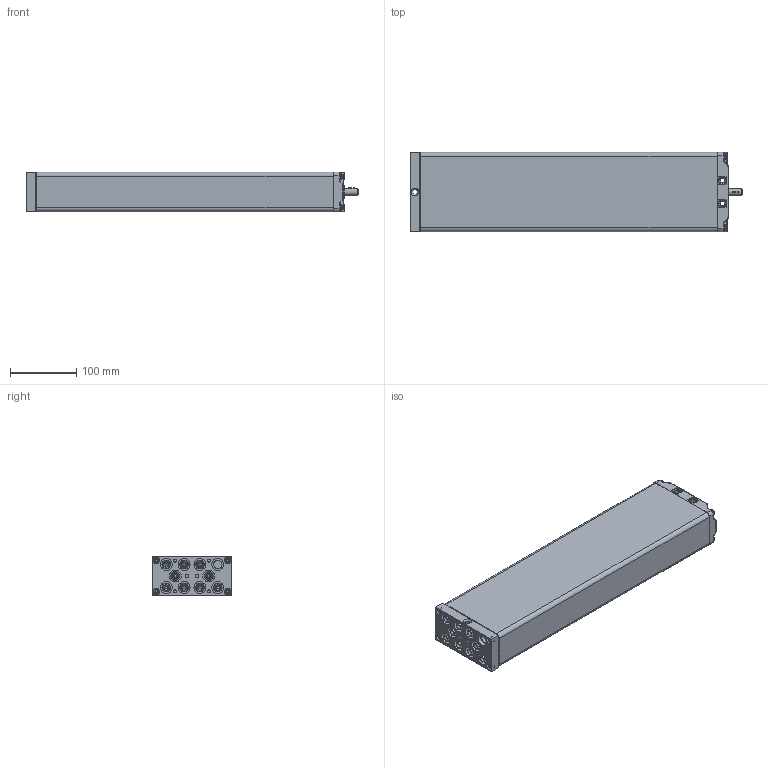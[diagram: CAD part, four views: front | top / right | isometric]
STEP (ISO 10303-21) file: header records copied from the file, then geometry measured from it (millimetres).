
FILE_DESCRIPTION(/* description */ ('Unknown'),/* implementation_level */ '2;1');
FILE_NAME(/* name */ '102.00182 Pumpe PB 9418 W',/* time_stamp */ '2016-11-25T12:38:04+01:00',/* author */ ('Unknown'),/* organization */ ('Unknown'),/* preprocessor_version */ 'ST-DEVELOPER v16.7',/* originating_system */ 'DEX',/* authorisation */ $);
FILE_SCHEMA (('AUTOMOTIVE_DESIGN {1 0 10303 214 3 1 1}'));
Products named in the file (15): 102.00182; 115.10023; 125.00031; 115.00007; 142.00021; 125.00021; 142.00013; 125.00143; 115.00140; 126.00006; 122.00040; 119.00043; 126.00036; 142.00057; 142.00017
Assembly tree (30 placements, depth 3):
  102.00182
    115.10023  x9
      125.00031
      115.00007
      142.00021
      125.00021
    142.00013  x8
    125.00143
    115.00140
      126.00006
      122.00040
    119.00043
    126.00036
    142.00057
    142.00017  x2
Bounding box: 502.5 x 120 x 60.3 mm (x, y, z)
Volume: 647813 mm3; surface area: 436521.4 mm2
Topology: 43 solids, 43 shells, 2145 faces, 4905 edges, 2875 vertices
Faces by surface type: plane 747, cylinder 494, bspline 377, cone 364, torus 104, sphere 59
Full cylindrical faces by diameter (mm): 3.5 x9, 4.1 x9, 4.134 x4, 4.2 x9, 4.917 x2, 5 x8, 5.8 x4, 6 x2, 6.8 x1, 6.917 x18, 8 x19, 9 x9, 9.8 x8, 10 x5, 10.4 x1, 10.5 x4, 12.5 x9, 13 x28, 13.9 x18, 14 x1, 18 x11, 19 x1
Entity records: 59901 total; most frequent: CARTESIAN_POINT 28815, ORIENTED_EDGE 5026, DIRECTION 4367, EDGE_CURVE 2513, AXIS2_PLACEMENT_3D 1696, VERTEX_POINT 1584, FACE_BOUND 1391, EDGE_LOOP 1390
